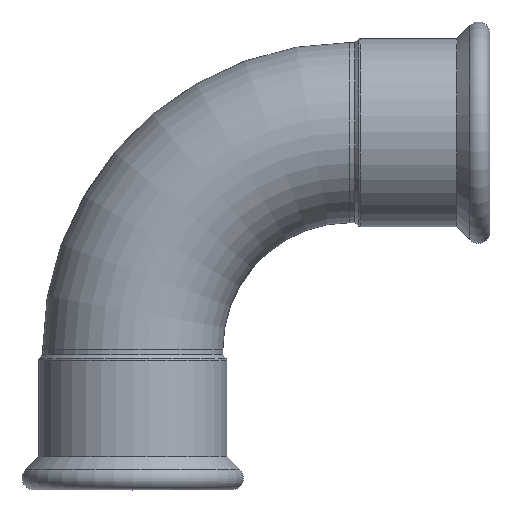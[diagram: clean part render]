
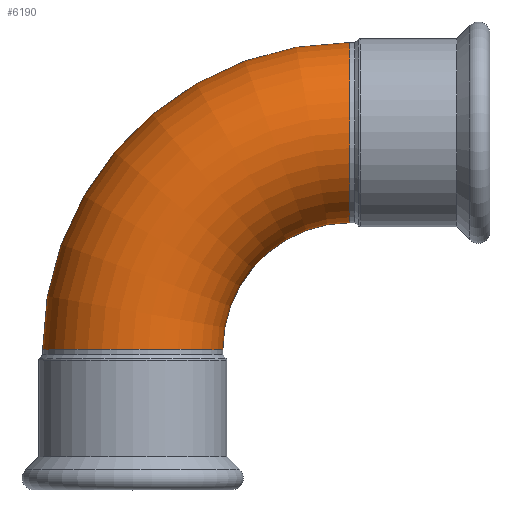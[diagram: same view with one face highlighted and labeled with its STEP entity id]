
A CAD part, top view. The second image highlights one B-rep face of the part: STEP entity #6190.
In plain terms, the highlighted toroidal (fillet/blend) face has major radius 130 mm and minor radius 54 mm.
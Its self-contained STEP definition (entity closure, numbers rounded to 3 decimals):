
#5030=CARTESIAN_POINT('',(1.,54.,0.));
#5040=VERTEX_POINT('',#5030);
#5130=CARTESIAN_POINT('',(1.,-54.,0.));
#5140=VERTEX_POINT('',#5130);
#5170=CARTESIAN_POINT('',(1.,0.,0.));
#5180=DIRECTION('',(1.,0.,0.));
#5190=DIRECTION('',(0.,-1.,0.));
#5200=AXIS2_PLACEMENT_3D('',#5170,#5180,#5190);
#5210=CIRCLE('',#5200,54.);
#5220=CARTESIAN_POINT('',(1.,0.,54.));
#5230=VERTEX_POINT('',#5220);
#5240=EDGE_CURVE('',#5230,#5140,#5210,.T.);
#5260=EDGE_CURVE('',#5040,#5230,#5210,.T.);
#5360=CARTESIAN_POINT('',(-129.,130.,0.));
#5370=DIRECTION('',(0.,-1.,0.));
#5380=DIRECTION('',(-1.,0.,0.));
#5390=AXIS2_PLACEMENT_3D('',#5360,#5370,#5380);
#5400=CIRCLE('',#5390,54.);
#5410=CARTESIAN_POINT('',(-129.,130.,54.));
#5420=VERTEX_POINT('',#5410);
#5430=CARTESIAN_POINT('',(-183.,130.,0.));
#5440=VERTEX_POINT('',#5430);
#5450=EDGE_CURVE('',#5420,#5440,#5400,.T.);
#5590=CARTESIAN_POINT('',(-75.,130.,0.));
#5600=VERTEX_POINT('',#5590);
#5630=EDGE_CURVE('',#5600,#5420,#5400,.T.);
#5940=CARTESIAN_POINT('',(1.,130.,0.));
#5950=DIRECTION('',(0.,0.,1.));
#5960=DIRECTION('',(-1.,0.,0.));
#5970=AXIS2_PLACEMENT_3D('',#5940,#5950,#5960);
#5980=TOROIDAL_SURFACE('',#5970,130.,54.);
#5990=ORIENTED_EDGE('',*,*,#5240,.F.);
#6000=CARTESIAN_POINT('',(1.,130.,0.));
#6010=DIRECTION('',(0.,0.,1.));
#6020=DIRECTION('',(-1.,0.,0.));
#6030=AXIS2_PLACEMENT_3D('',#6000,#6010,#6020);
#6040=CIRCLE('',#6030,184.);
#6050=EDGE_CURVE('',#5440,#5140,#6040,.T.);
#6060=ORIENTED_EDGE('',*,*,#6050,.T.);
#6070=ORIENTED_EDGE('',*,*,#5450,.T.);
#6080=ORIENTED_EDGE('',*,*,#5630,.T.);
#6090=CARTESIAN_POINT('',(1.,130.,0.));
#6100=DIRECTION('',(0.,0.,1.));
#6110=DIRECTION('',(-1.,0.,0.));
#6120=AXIS2_PLACEMENT_3D('',#6090,#6100,#6110);
#6130=CIRCLE('',#6120,76.);
#6140=EDGE_CURVE('',#5600,#5040,#6130,.T.);
#6150=ORIENTED_EDGE('',*,*,#6140,.F.);
#6160=ORIENTED_EDGE('',*,*,#5260,.F.);
#6170=EDGE_LOOP('',(#6160,#6150,#6080,#6070,#6060,#5990));
#6180=FACE_OUTER_BOUND('',#6170,.T.);
#6190=ADVANCED_FACE('',(#6180),#5980,.T.);
